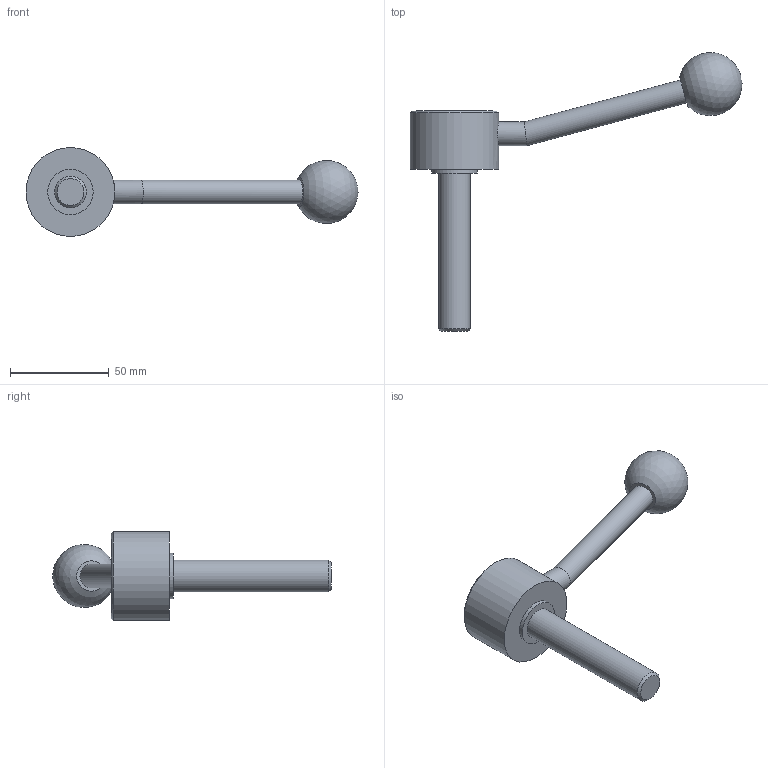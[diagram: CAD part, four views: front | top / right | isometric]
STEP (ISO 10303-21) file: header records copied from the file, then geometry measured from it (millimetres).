
FILE_DESCRIPTION( ( 'STEP AP203' ), '1' );
FILE_NAME( 'C:/Temp/Ganter_Step_05_03_2020/data/2_1/gn_125/gn_125_ms/gn_125_ms_e/Flat Adjustable Lever GN 125-45-M16-80-E.stp', '2020-03-05T11:01:03', ( 'License CC BY-ND 4.0' ), ( 'CADENAS' ), ' ', 'PARTsolutions', ' ' );
FILE_SCHEMA( ( 'CONFIG_CONTROL_DESIGN' ) );
Length unit declared in the file: millimetre
Products named in the file (1): _Flat Adjustable Lever GN 125-45-M16-80-E
Bounding box: 168.04 x 141.05 x 45 mm (x, y, z)
Volume: 91412.4 mm3; surface area: 18044 mm2
Topology: 1 solids, 1 shells, 15 faces, 25 edges, 16 vertices
Faces by surface type: cylinder 6, plane 6, cone 2, sphere 1
Full cylindrical faces by diameter (mm): 12 x2, 16 x1, 23 x1, 32 x1, 45 x1
Entity records: 422 total; most frequent: CARTESIAN_POINT 128, DIRECTION 58, AXIS2_PLACEMENT_3D 29, EDGE_LOOP 28, ORIENTED_EDGE 28, FACE_OUTER_BOUND 21, ADVANCED_FACE 15, VERTEX_POINT 15
